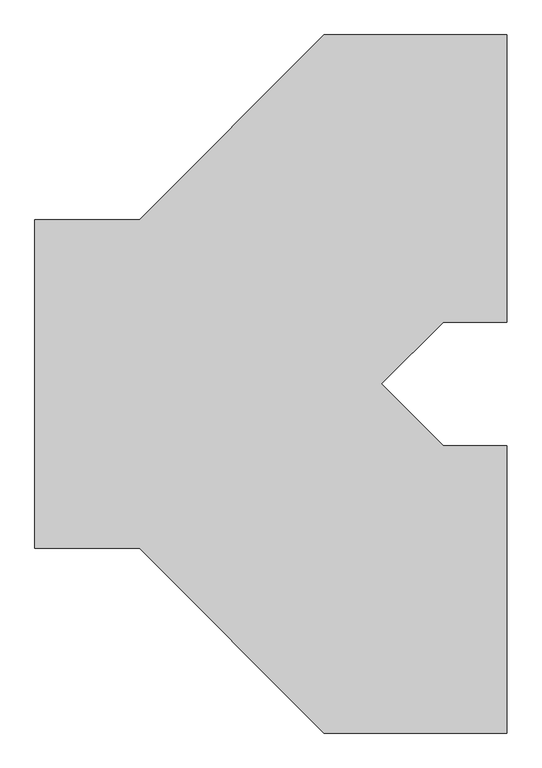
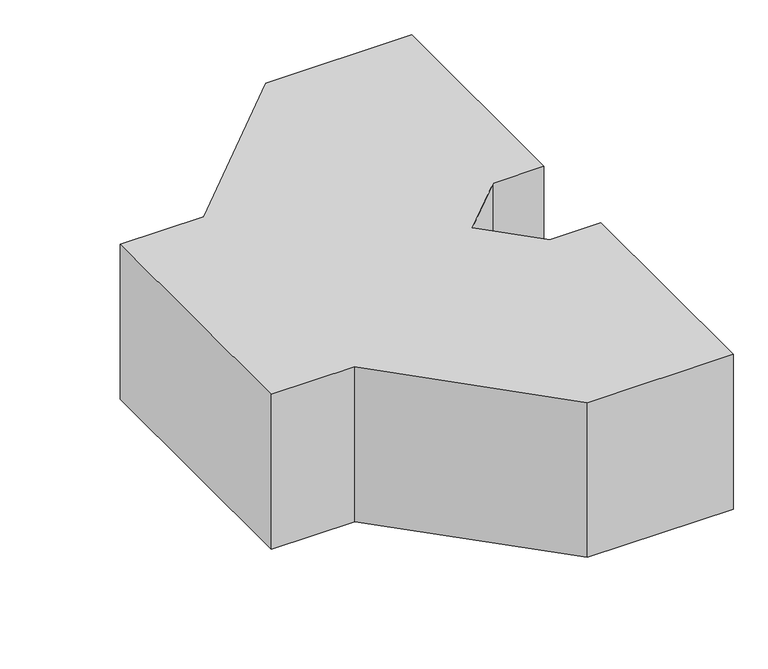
"""IFC4 building model written with IfcOpenShell, lengths in millimetres: duct fitting geometry, 2017_Pantalon_Climaver_Rectangular : Ramificación-Doble_Pantaló- Recto_Climaver."""

from ifc_helpers import new_model, si_unit, frame, origin, place, context, project, spatial, polyline, outline, extrude, source, transform, mapped, element, save


def duct_fitting_ae43bb64(model_context):
    return source(origin(), model_context, "Body", "SweptSolid", [
        extrude(outline(polyline([(1150.0, -150.0), (1150.0, -850.0), (705.0252532, -850.0), (255.0252532, -400.0), (0.0, -400.0), (0.0, 400.0), (255.0252532, 400.0), (705.0252532, 850.0), (1150.0, 850.0), (1150.0, 150.0), (994.9747468, 150.0), (844.9747468, 0.0), (994.9747468, -150.0), (1150.0, -150.0)])), frame((0.0, 0.0, -250.0), z_axis=(0.0, 0.0, 1.0), x_axis=(1.0, 0.0, 0.0)), (0.0, 0.0, 1.0), 500.0),
    ])


if __name__ == "__main__":
    model = new_model("IFC4")
    model_context = context("Model", 3, world=origin())
    ifc_project = project(units=[si_unit("LENGTHUNIT", "METRE", prefix="MILLI")], contexts=[model_context])
    site = spatial("IfcSite", under=ifc_project)
    building = spatial("IfcBuilding", under=site)
    placement = place(None, origin())
    duct_fitting_shape = duct_fitting_ae43bb64(model_context)
    element("IfcDuctFitting", 1, ObjectType="2017_Pantalon_Climaver_Rectangular : Ramificación-Doble_Pantaló- Recto_Climaver", at=placement, inside=building, context=model_context, shape_type="MappedRepresentation", body=[
        mapped(duct_fitting_shape, transform((0.0, 0.0, 0.0), x_axis=(1.0, 0.0, 0.0), y_axis=(0.0, 1.0, 0.0), z_axis=(0.0, 0.0, 1.0))),
    ])
    save(model, "model.ifc")
